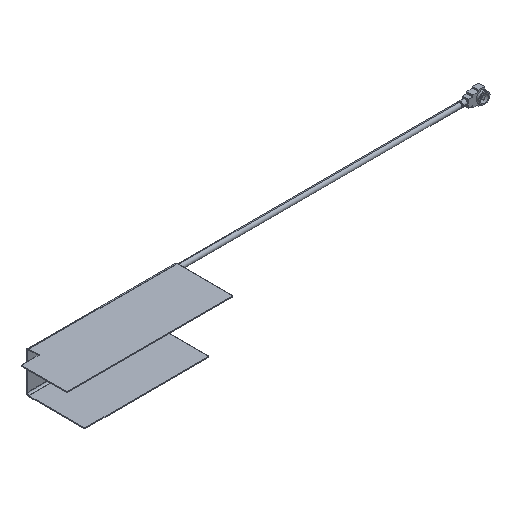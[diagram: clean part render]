
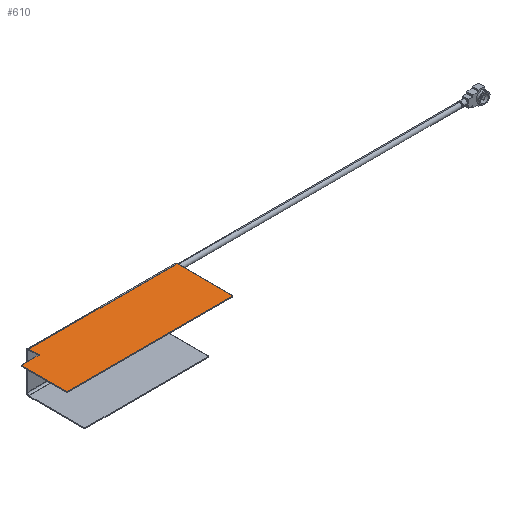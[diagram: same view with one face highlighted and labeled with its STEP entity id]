
A CAD part, isometric view. The second image highlights one B-rep face of the part: STEP entity #610.
In plain terms, the highlighted planar face has unit normal (0, 0, 1).
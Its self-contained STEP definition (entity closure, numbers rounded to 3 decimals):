
#29=DIRECTION('',(0.,1.,0.));
#30=VECTOR('',#29,2.341);
#31=CARTESIAN_POINT('',(-16.1,-5.904,0.2));
#32=LINE('',#31,#30);
#33=CARTESIAN_POINT('',(17.6,-16.101,0.2));
#34=DIRECTION('',(0.,0.,-1.));
#35=DIRECTION('',(1.,0.,0.));
#36=AXIS2_PLACEMENT_3D('',#33,#34,#35);
#38=CARTESIAN_POINT('',(-19.9,-16.101,0.2));
#39=DIRECTION('',(0.,0.,-1.));
#40=DIRECTION('',(0.,-1.,0.));
#41=AXIS2_PLACEMENT_3D('',#38,#39,#40);
#43=CARTESIAN_POINT('',(-19.9,-6.204,0.2));
#44=DIRECTION('',(0.,0.,-1.));
#45=DIRECTION('',(-1.,0.,0.));
#46=AXIS2_PLACEMENT_3D('',#43,#44,#45);
#48=DIRECTION('',(-1.,0.,0.));
#49=VECTOR('',#48,3.8);
#50=CARTESIAN_POINT('',(-16.1,-5.904,0.2));
#51=LINE('',#50,#49);
#277=DIRECTION('',(0.,-1.,0.));
#278=VECTOR('',#277,9.897);
#279=CARTESIAN_POINT('',(-20.2,-6.204,0.2));
#280=LINE('',#279,#278);
#289=DIRECTION('',(1.,0.,0.));
#290=VECTOR('',#289,37.5);
#291=CARTESIAN_POINT('',(-19.9,-16.401,0.2));
#292=LINE('',#291,#290);
#301=DIRECTION('',(0.,1.,0.));
#302=VECTOR('',#301,12.538);
#303=CARTESIAN_POINT('',(17.9,-16.101,0.2));
#304=LINE('',#303,#302);
#453=DIRECTION('',(-1.,0.,0.));
#454=VECTOR('',#453,34.);
#455=CARTESIAN_POINT('',(17.9,-3.563,0.2));
#456=LINE('',#455,#454);
#457=CARTESIAN_POINT('',(-16.1,-5.904,0.2));
#458=CARTESIAN_POINT('',(-19.9,-5.904,0.2));
#459=VERTEX_POINT('',#457);
#460=VERTEX_POINT('',#458);
#461=CARTESIAN_POINT('',(-16.1,-3.563,0.2));
#462=VERTEX_POINT('',#461);
#463=CARTESIAN_POINT('',(17.9,-3.563,0.2));
#464=VERTEX_POINT('',#463);
#465=CARTESIAN_POINT('',(17.9,-16.101,0.2));
#466=VERTEX_POINT('',#465);
#467=CARTESIAN_POINT('',(17.6,-16.401,0.2));
#468=VERTEX_POINT('',#467);
#469=CARTESIAN_POINT('',(-19.9,-16.401,0.2));
#470=VERTEX_POINT('',#469);
#471=CARTESIAN_POINT('',(-20.2,-16.101,0.2));
#472=VERTEX_POINT('',#471);
#473=CARTESIAN_POINT('',(-20.2,-6.204,0.2));
#474=VERTEX_POINT('',#473);
#585=CARTESIAN_POINT('',(0.,0.,0.2));
#586=DIRECTION('',(0.,0.,1.));
#587=DIRECTION('',(1.,0.,0.));
#588=AXIS2_PLACEMENT_3D('',#585,#586,#587);
#589=PLANE('',#588);
#591=ORIENTED_EDGE('',*,*,#590,.F.);
#593=ORIENTED_EDGE('',*,*,#592,.T.);
#595=ORIENTED_EDGE('',*,*,#594,.F.);
#597=ORIENTED_EDGE('',*,*,#596,.F.);
#599=ORIENTED_EDGE('',*,*,#598,.T.);
#601=ORIENTED_EDGE('',*,*,#600,.F.);
#603=ORIENTED_EDGE('',*,*,#602,.T.);
#605=ORIENTED_EDGE('',*,*,#604,.F.);
#607=ORIENTED_EDGE('',*,*,#606,.T.);
#608=EDGE_LOOP('',(#591,#593,#595,#597,#599,#601,#603,#605,#607));
#609=FACE_OUTER_BOUND('',#608,.F.);
#610=ADVANCED_FACE('',(#609),#589,.T.);
#37=CIRCLE('',#36,0.3);
#42=CIRCLE('',#41,0.3);
#47=CIRCLE('',#46,0.3);
#590=EDGE_CURVE('',#459,#460,#51,.T.);
#592=EDGE_CURVE('',#459,#462,#32,.T.);
#594=EDGE_CURVE('',#464,#462,#456,.T.);
#596=EDGE_CURVE('',#466,#464,#304,.T.);
#598=EDGE_CURVE('',#466,#468,#37,.T.);
#600=EDGE_CURVE('',#470,#468,#292,.T.);
#602=EDGE_CURVE('',#470,#472,#42,.T.);
#604=EDGE_CURVE('',#474,#472,#280,.T.);
#606=EDGE_CURVE('',#474,#460,#47,.T.);
